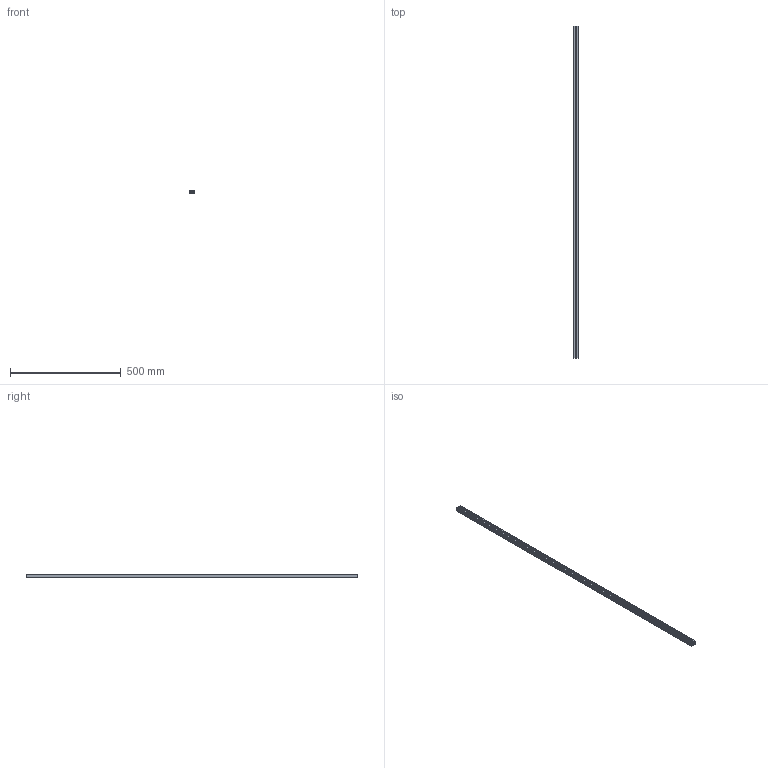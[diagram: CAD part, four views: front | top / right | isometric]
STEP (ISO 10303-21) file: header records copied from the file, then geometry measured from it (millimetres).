
FILE_DESCRIPTION (( 'STEP AP214' ), '1' );
FILE_NAME ('PEP2518-1500.STEP', '2019-10-30T01:01:25', ( '微软用户' ), ( '微软中国' ), 'SwSTEP 2.0', 'SolidWorks 2016', '' );
FILE_SCHEMA (( 'AUTOMOTIVE_DESIGN' ));
Length unit declared in the file: millimetre
Products named in the file (1): PEP2518-1500
Bounding box: 25 x 1500 x 18 mm (x, y, z)
Volume: 251757.5 mm3; surface area: 333057.6 mm2
Topology: 1 solids, 1 shells, 119 faces, 351 edges, 234 vertices
Faces by surface type: cylinder 67, plane 52
Entity records: 5370 total; most frequent: DIRECTION 725, CARTESIAN_POINT 705, ORIENTED_EDGE 702, EDGE_CURVE 351, AXIS2_PLACEMENT_3D 254, VERTEX_POINT 234, VECTOR 217, LINE 217
